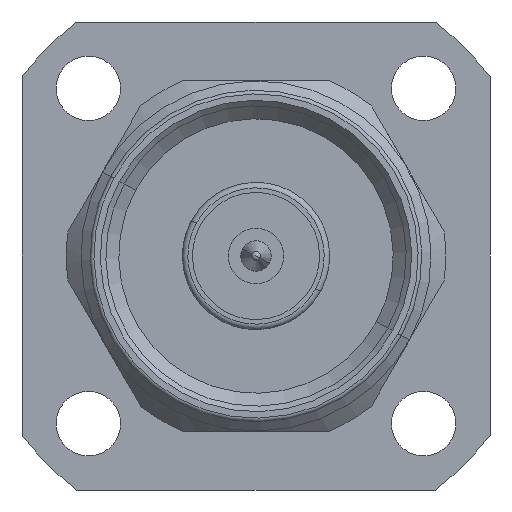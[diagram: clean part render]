
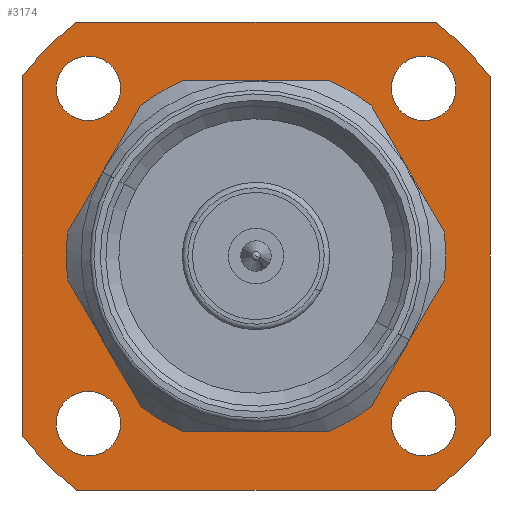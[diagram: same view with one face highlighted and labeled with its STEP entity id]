
A CAD part, left-side view. The second image highlights one B-rep face of the part: STEP entity #3174.
In plain terms, the highlighted planar face has unit normal (-1, 0, 0).
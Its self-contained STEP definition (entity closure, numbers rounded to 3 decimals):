
#57=CARTESIAN_POINT('Axis2P3D Location',(19.7,-9.1,-9.1)) ;
#61=CARTESIAN_POINT('Vertex',(19.7,-7.35,-9.1)) ;
#63=CARTESIAN_POINT('Vertex',(19.7,-10.85,-9.1)) ;
#92=CARTESIAN_POINT('Axis2P3D Location',(19.7,-9.1,-9.1)) ;
#266=CARTESIAN_POINT('Vertex',(19.7,-9.732,12.7)) ;
#269=CARTESIAN_POINT('Axis2P3D Location',(19.7,0.,0.)) ;
#273=CARTESIAN_POINT('Vertex',(19.7,-12.7,9.732)) ;
#293=CARTESIAN_POINT('Line Origine',(19.7,-12.7,0.)) ;
#297=CARTESIAN_POINT('Vertex',(19.7,-12.7,-9.732)) ;
#312=CARTESIAN_POINT('Axis2P3D Location',(19.7,0.,0.)) ;
#316=CARTESIAN_POINT('Vertex',(19.7,-9.732,-12.7)) ;
#340=CARTESIAN_POINT('Vertex',(19.7,9.732,-12.7)) ;
#343=CARTESIAN_POINT('Line Origine',(19.7,0.,-12.7)) ;
#355=CARTESIAN_POINT('Axis2P3D Location',(19.7,0.,0.)) ;
#359=CARTESIAN_POINT('Vertex',(19.7,12.7,-9.732)) ;
#379=CARTESIAN_POINT('Line Origine',(19.7,12.7,0.)) ;
#383=CARTESIAN_POINT('Vertex',(19.7,12.7,9.732)) ;
#398=CARTESIAN_POINT('Axis2P3D Location',(19.7,0.,0.)) ;
#402=CARTESIAN_POINT('Vertex',(19.7,9.732,12.7)) ;
#422=CARTESIAN_POINT('Line Origine',(19.7,0.,12.7)) ;
#445=CARTESIAN_POINT('Vertex',(19.7,6.582,3.596)) ;
#448=CARTESIAN_POINT('Axis2P3D Location',(19.7,0.,0.)) ;
#452=CARTESIAN_POINT('Vertex',(19.7,-6.582,-3.596)) ;
#474=CARTESIAN_POINT('Axis2P3D Location',(19.7,0.,0.)) ;
#3015=CARTESIAN_POINT('Axis2P3D Location',(19.7,9.1,9.1)) ;
#3019=CARTESIAN_POINT('Vertex',(19.7,7.35,9.1)) ;
#3021=CARTESIAN_POINT('Vertex',(19.7,10.85,9.1)) ;
#3041=CARTESIAN_POINT('Axis2P3D Location',(19.7,9.1,9.1)) ;
#3058=CARTESIAN_POINT('Axis2P3D Location',(19.7,-9.1,9.1)) ;
#3062=CARTESIAN_POINT('Vertex',(19.7,-7.35,9.1)) ;
#3064=CARTESIAN_POINT('Vertex',(19.7,-10.85,9.1)) ;
#3084=CARTESIAN_POINT('Axis2P3D Location',(19.7,-9.1,9.1)) ;
#3101=CARTESIAN_POINT('Axis2P3D Location',(19.7,9.1,-9.1)) ;
#3105=CARTESIAN_POINT('Vertex',(19.7,7.35,-9.1)) ;
#3107=CARTESIAN_POINT('Vertex',(19.7,10.85,-9.1)) ;
#3127=CARTESIAN_POINT('Axis2P3D Location',(19.7,9.1,-9.1)) ;
#3139=CARTESIAN_POINT('Axis2P3D Location',(19.7,-7.5,0.)) ;
#58=DIRECTION('Axis2P3D Direction',(1.,0.,0.)) ;
#93=DIRECTION('Axis2P3D Direction',(1.,0.,0.)) ;
#270=DIRECTION('Axis2P3D Direction',(1.,0.,0.)) ;
#294=DIRECTION('Vector Direction',(0.,0.,-1.)) ;
#313=DIRECTION('Axis2P3D Direction',(1.,0.,0.)) ;
#344=DIRECTION('Vector Direction',(0.,-1.,0.)) ;
#356=DIRECTION('Axis2P3D Direction',(1.,0.,0.)) ;
#380=DIRECTION('Vector Direction',(0.,0.,1.)) ;
#399=DIRECTION('Axis2P3D Direction',(1.,0.,0.)) ;
#423=DIRECTION('Vector Direction',(0.,1.,0.)) ;
#449=DIRECTION('Axis2P3D Direction',(1.,0.,0.)) ;
#475=DIRECTION('Axis2P3D Direction',(1.,0.,0.)) ;
#3016=DIRECTION('Axis2P3D Direction',(1.,0.,0.)) ;
#3042=DIRECTION('Axis2P3D Direction',(1.,0.,0.)) ;
#3059=DIRECTION('Axis2P3D Direction',(1.,0.,0.)) ;
#3085=DIRECTION('Axis2P3D Direction',(1.,0.,0.)) ;
#3102=DIRECTION('Axis2P3D Direction',(1.,0.,0.)) ;
#3128=DIRECTION('Axis2P3D Direction',(1.,0.,0.)) ;
#3140=DIRECTION('Axis2P3D Direction',(1.,0.,0.)) ;
#3141=DIRECTION('Axis2P3D XDirection',(0.,1.,0.)) ;
#59=AXIS2_PLACEMENT_3D('Circle Axis2P3D',#57,#58,$) ;
#94=AXIS2_PLACEMENT_3D('Circle Axis2P3D',#92,#93,$) ;
#271=AXIS2_PLACEMENT_3D('Circle Axis2P3D',#269,#270,$) ;
#314=AXIS2_PLACEMENT_3D('Circle Axis2P3D',#312,#313,$) ;
#357=AXIS2_PLACEMENT_3D('Circle Axis2P3D',#355,#356,$) ;
#400=AXIS2_PLACEMENT_3D('Circle Axis2P3D',#398,#399,$) ;
#450=AXIS2_PLACEMENT_3D('Circle Axis2P3D',#448,#449,$) ;
#476=AXIS2_PLACEMENT_3D('Circle Axis2P3D',#474,#475,$) ;
#3017=AXIS2_PLACEMENT_3D('Circle Axis2P3D',#3015,#3016,$) ;
#3043=AXIS2_PLACEMENT_3D('Circle Axis2P3D',#3041,#3042,$) ;
#3060=AXIS2_PLACEMENT_3D('Circle Axis2P3D',#3058,#3059,$) ;
#3086=AXIS2_PLACEMENT_3D('Circle Axis2P3D',#3084,#3085,$) ;
#3103=AXIS2_PLACEMENT_3D('Circle Axis2P3D',#3101,#3102,$) ;
#3129=AXIS2_PLACEMENT_3D('Circle Axis2P3D',#3127,#3128,$) ;
#3142=AXIS2_PLACEMENT_3D('Plane Axis2P3D',#3139,#3140,#3141) ;
#3145=ORIENTED_EDGE('',*,*,#299,.F.) ;
#3146=ORIENTED_EDGE('',*,*,#275,.F.) ;
#3147=ORIENTED_EDGE('',*,*,#426,.T.) ;
#3148=ORIENTED_EDGE('',*,*,#404,.F.) ;
#3149=ORIENTED_EDGE('',*,*,#385,.F.) ;
#3150=ORIENTED_EDGE('',*,*,#361,.F.) ;
#3151=ORIENTED_EDGE('',*,*,#347,.T.) ;
#3152=ORIENTED_EDGE('',*,*,#318,.F.) ;
#3155=ORIENTED_EDGE('',*,*,#65,.T.) ;
#3156=ORIENTED_EDGE('',*,*,#96,.T.) ;
#3159=ORIENTED_EDGE('',*,*,#3109,.T.) ;
#3160=ORIENTED_EDGE('',*,*,#3131,.T.) ;
#3163=ORIENTED_EDGE('',*,*,#3066,.T.) ;
#3164=ORIENTED_EDGE('',*,*,#3088,.T.) ;
#3167=ORIENTED_EDGE('',*,*,#3023,.T.) ;
#3168=ORIENTED_EDGE('',*,*,#3045,.T.) ;
#3171=ORIENTED_EDGE('',*,*,#478,.T.) ;
#3172=ORIENTED_EDGE('',*,*,#454,.T.) ;
#3157=FACE_BOUND('',#3154,.T.) ;
#3161=FACE_BOUND('',#3158,.T.) ;
#3165=FACE_BOUND('',#3162,.T.) ;
#3169=FACE_BOUND('',#3166,.T.) ;
#3173=FACE_BOUND('',#3170,.T.) ;
#295=VECTOR('Line Direction',#294,1.) ;
#345=VECTOR('Line Direction',#344,1.) ;
#381=VECTOR('Line Direction',#380,1.) ;
#424=VECTOR('Line Direction',#423,1.) ;
#3174=ADVANCED_FACE('\X2\96F64EF651E04F554F53\X0\',(#3153,#3157,#3161,#3165,#3169,#3173),#3143,.F.) ;
#60=CIRCLE('generated circle',#59,1.75) ;
#95=CIRCLE('generated circle',#94,1.75) ;
#272=CIRCLE('generated circle',#271,16.) ;
#315=CIRCLE('generated circle',#314,16.) ;
#358=CIRCLE('generated circle',#357,16.) ;
#401=CIRCLE('generated circle',#400,16.) ;
#451=CIRCLE('generated circle',#450,7.5) ;
#477=CIRCLE('generated circle',#476,7.5) ;
#3018=CIRCLE('generated circle',#3017,1.75) ;
#3044=CIRCLE('generated circle',#3043,1.75) ;
#3061=CIRCLE('generated circle',#3060,1.75) ;
#3087=CIRCLE('generated circle',#3086,1.75) ;
#3104=CIRCLE('generated circle',#3103,1.75) ;
#3130=CIRCLE('generated circle',#3129,1.75) ;
#65=EDGE_CURVE('',#62,#64,#60,.T.) ;
#96=EDGE_CURVE('',#64,#62,#95,.T.) ;
#275=EDGE_CURVE('',#267,#274,#272,.T.) ;
#299=EDGE_CURVE('',#274,#298,#296,.T.) ;
#318=EDGE_CURVE('',#298,#317,#315,.T.) ;
#347=EDGE_CURVE('',#341,#317,#346,.T.) ;
#361=EDGE_CURVE('',#341,#360,#358,.T.) ;
#385=EDGE_CURVE('',#360,#384,#382,.T.) ;
#404=EDGE_CURVE('',#384,#403,#401,.T.) ;
#426=EDGE_CURVE('',#267,#403,#425,.T.) ;
#454=EDGE_CURVE('',#453,#446,#451,.T.) ;
#478=EDGE_CURVE('',#446,#453,#477,.T.) ;
#3023=EDGE_CURVE('',#3020,#3022,#3018,.T.) ;
#3045=EDGE_CURVE('',#3022,#3020,#3044,.T.) ;
#3066=EDGE_CURVE('',#3063,#3065,#3061,.T.) ;
#3088=EDGE_CURVE('',#3065,#3063,#3087,.T.) ;
#3109=EDGE_CURVE('',#3106,#3108,#3104,.T.) ;
#3131=EDGE_CURVE('',#3108,#3106,#3130,.T.) ;
#3144=EDGE_LOOP('',(#3145,#3146,#3147,#3148,#3149,#3150,#3151,#3152)) ;
#3154=EDGE_LOOP('',(#3155,#3156)) ;
#3158=EDGE_LOOP('',(#3159,#3160)) ;
#3162=EDGE_LOOP('',(#3163,#3164)) ;
#3166=EDGE_LOOP('',(#3167,#3168)) ;
#3170=EDGE_LOOP('',(#3171,#3172)) ;
#3153=FACE_OUTER_BOUND('',#3144,.T.) ;
#296=LINE('Line',#293,#295) ;
#346=LINE('Line',#343,#345) ;
#382=LINE('Line',#379,#381) ;
#425=LINE('Line',#422,#424) ;
#3143=PLANE('Plane',#3142) ;
#62=VERTEX_POINT('',#61) ;
#64=VERTEX_POINT('',#63) ;
#267=VERTEX_POINT('',#266) ;
#274=VERTEX_POINT('',#273) ;
#298=VERTEX_POINT('',#297) ;
#317=VERTEX_POINT('',#316) ;
#341=VERTEX_POINT('',#340) ;
#360=VERTEX_POINT('',#359) ;
#384=VERTEX_POINT('',#383) ;
#403=VERTEX_POINT('',#402) ;
#446=VERTEX_POINT('',#445) ;
#453=VERTEX_POINT('',#452) ;
#3020=VERTEX_POINT('',#3019) ;
#3022=VERTEX_POINT('',#3021) ;
#3063=VERTEX_POINT('',#3062) ;
#3065=VERTEX_POINT('',#3064) ;
#3106=VERTEX_POINT('',#3105) ;
#3108=VERTEX_POINT('',#3107) ;
